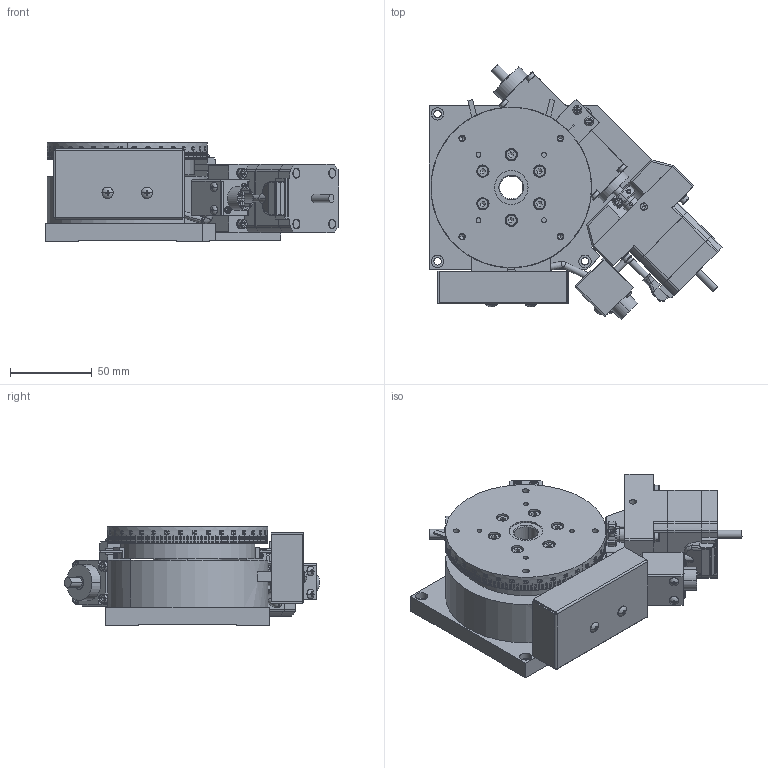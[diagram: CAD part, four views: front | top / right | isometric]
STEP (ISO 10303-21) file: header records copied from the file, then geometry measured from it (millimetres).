
FILE_DESCRIPTION (( 'STEP AP203' ), '1' );
FILE_NAME ('RA10A-W01-R.STEP', '2019-02-20T05:25:09', ( '' ), ( '' ), 'SwSTEP 2.0', 'SolidWorks 2018', '' );
FILE_SCHEMA (( 'CONFIG_CONTROL_DESIGN' ));
Length unit declared in the file: millimetre
Products named in the file (8): table-Part-3; RA10A-W01-R; table; RA10A-W01-R.sldasm-Part-1; table-Part-4; base; table-Part-2; table-Part-1
Assembly tree (7 placements, depth 3):
  RA10A-W01-R
    table
      table-Part-1
      table-Part-2
      table-Part-3
      table-Part-4
    RA10A-W01-R.sldasm-Part-1
    base
Bounding box: 179.05 x 156.02 x 60 mm (x, y, z)
Volume: 644081 mm3; surface area: 136871 mm2
Topology: 6 solids, 7 shells, 4867 faces, 12901 edges, 8294 vertices
Faces by surface type: plane 3448, cylinder 1035, cone 308, torus 40, sphere 32, bspline 4
Entity records: 151513 total; most frequent: CARTESIAN_POINT 29885, ORIENTED_EDGE 25626, DIRECTION 25415, EDGE_CURVE 12813, AXIS2_PLACEMENT_3D 8806, VERTEX_POINT 8294, LINE 7803, VECTOR 7803
